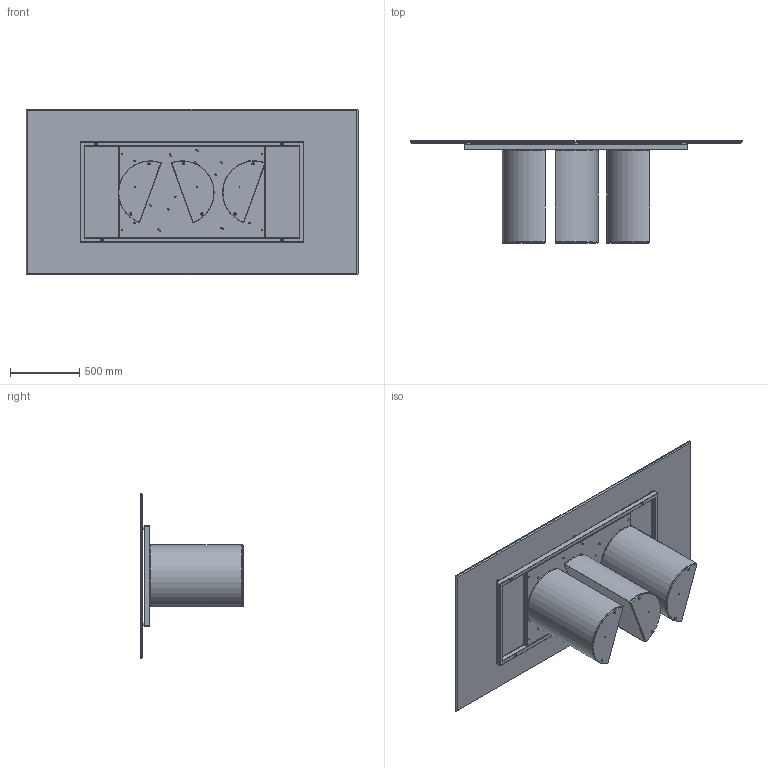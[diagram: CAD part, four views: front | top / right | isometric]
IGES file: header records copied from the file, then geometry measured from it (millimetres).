
Start section: SolidWorks IGES file using analytic representation for surfaces
Global section: file name: Y:\eforma\TECNICO\SOLIDWORKS\E-FORMA\1-TAVOLI\PLAI\02 parts\PL22C.IGS; native system: SolidWorks 2022; preprocessor: SolidWorks 2022; author: eforma.tech; date: 240807.155205; units: millimetre
Bounding box: 2390 x 740 x 1190 mm (x, y, z)
Volume: 58050842.2 mm3; surface area: 20104682.8 mm2
Topology: 49 solids, 49 shells, 1130 faces, 2534 edges, 1484 vertices
Faces by surface type: revolution 649, plane 481
